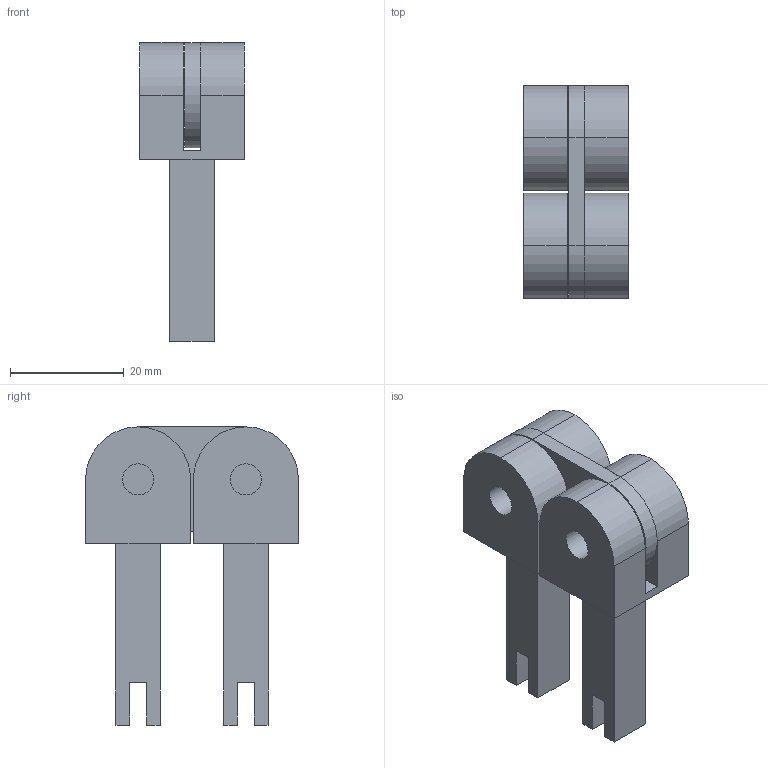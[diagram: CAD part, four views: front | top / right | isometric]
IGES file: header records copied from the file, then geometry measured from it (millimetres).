
Start section: Data from Parasolid IGES Translator 20.0.26, Copyright(c) 2006 Siemens P LM Software. All Rights Reserved.
Global section: file name: 9298845.igs; native system: By Siemens PLM Incorporated; preprocessor: XPlus GENERIC/IGES 20.0.26; author: Noname; organization: Noname; date: 20210826.184600; units: millimetre
Bounding box: 18.5 x 37.5 x 52.55 mm (x, y, z)
Surface area: 9084 mm2 (no closed solid volume)
Topology: 0 solids, 0 shells, 56 faces, 276 edges, 276 vertices
Faces by surface type: extrusion 40, revolution 16
